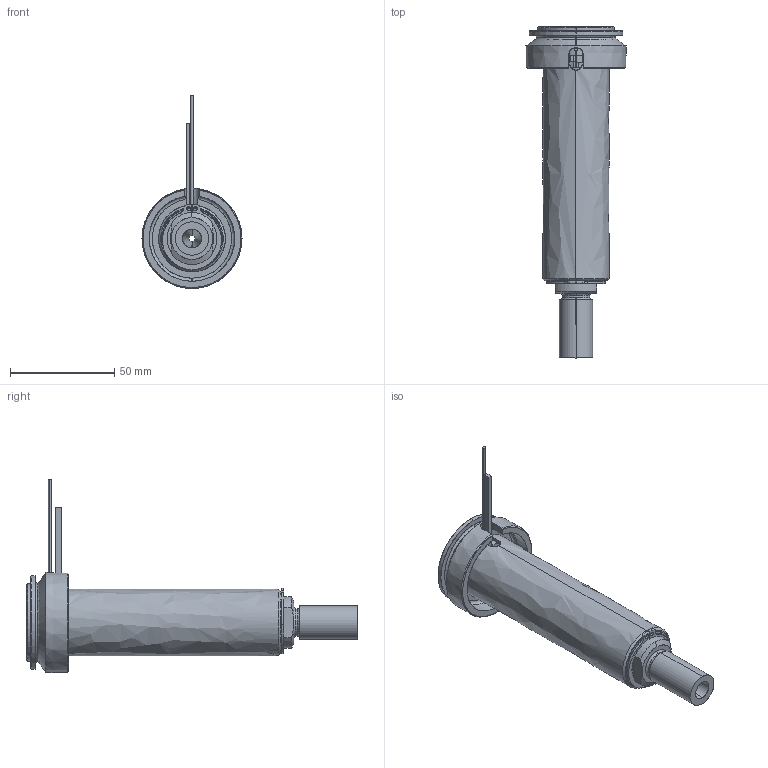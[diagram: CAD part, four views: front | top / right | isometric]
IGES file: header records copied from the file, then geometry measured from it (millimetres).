
Start section: SolidWorks IGES file using analytic representation for surfaces
Global section: file name: C:\Documents and Settings\ws-20\Desktop\TEMPORANEA\UGBE5003-M-A-P-5 [Ød-3.0 P-25 ØC-13].IGS; native system: SolidWorks 2012; preprocessor: SolidWorks 2012; author: ws-20; date: 120306.162141; units: millimetre
Bounding box: 48 x 159.25 x 92.62 mm (x, y, z)
Surface area: 51316.1 mm2 (no closed solid volume)
Topology: 0 solids, 0 shells, 106 faces, 2018 edges, 2018 vertices
Faces by surface type: revolution 61, bspline 45
